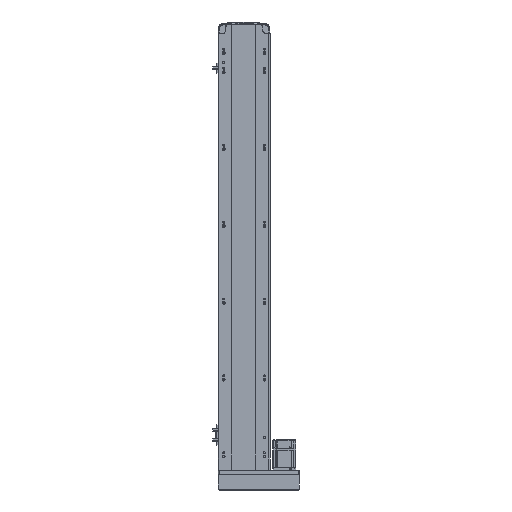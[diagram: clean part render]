
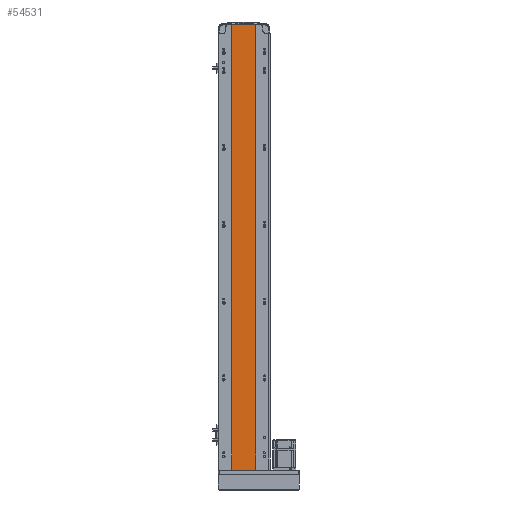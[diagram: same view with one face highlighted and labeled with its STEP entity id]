
A CAD part, front view. The second image highlights one B-rep face of the part: STEP entity #54531.
In plain terms, the highlighted planar face has unit normal (0, -1, 0).
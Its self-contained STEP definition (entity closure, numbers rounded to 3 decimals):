
#2280 = PLANE ( 'NONE',  #33561 ) ;
#2338 = CARTESIAN_POINT ( 'NONE',  ( 30., 1., 1159. ) ) ;
#3316 = VERTEX_POINT ( 'NONE', #15668 ) ;
#4162 = VERTEX_POINT ( 'NONE', #29445 ) ;
#5282 = EDGE_CURVE ( 'NONE', #32077, #3316, #43988, .T. ) ;
#6586 = EDGE_LOOP ( 'NONE', ( #13272, #41382, #21605, #58001 ) ) ;
#7903 = VECTOR ( 'NONE', #25782, 1000. ) ;
#9614 = VECTOR ( 'NONE', #40046, 1000. ) ;
#10945 = CARTESIAN_POINT ( 'NONE',  ( -32., 1., 1159. ) ) ;
#13084 = CARTESIAN_POINT ( 'NONE',  ( -32., 1., 0. ) ) ;
#13272 = ORIENTED_EDGE ( 'NONE', *, *, #29206, .T. ) ;
#15668 = CARTESIAN_POINT ( 'NONE',  ( 30., 1., 0. ) ) ;
#15689 = DIRECTION ( 'NONE',  ( 0., 1., 0. ) ) ;
#17677 = DIRECTION ( 'NONE',  ( 1., 0., 0. ) ) ;
#18679 = CARTESIAN_POINT ( 'NONE',  ( 30., 1., 1159. ) ) ;
#21605 = ORIENTED_EDGE ( 'NONE', *, *, #26670, .F. ) ;
#25252 = VECTOR ( 'NONE', #17677, 1000. ) ;
#25601 = DIRECTION ( 'NONE',  ( 1., 0., 0. ) ) ;
#25782 = DIRECTION ( 'NONE',  ( 0., 0., -1. ) ) ;
#26670 = EDGE_CURVE ( 'NONE', #4162, #32077, #55196, .T. ) ;
#29199 = CARTESIAN_POINT ( 'NONE',  ( -32., 1., 0. ) ) ;
#29206 = EDGE_CURVE ( 'NONE', #37166, #3316, #36600, .T. ) ;
#29445 = CARTESIAN_POINT ( 'NONE',  ( -32., 1., 1159. ) ) ;
#29731 = EDGE_CURVE ( 'NONE', #4162, #37166, #46400, .T. ) ;
#32077 = VERTEX_POINT ( 'NONE', #2338 ) ;
#33561 = AXIS2_PLACEMENT_3D ( 'NONE', #33981, #15689, #47146 ) ;
#33981 = CARTESIAN_POINT ( 'NONE',  ( -32., 1., 1159. ) ) ;
#36600 = LINE ( 'NONE', #13084, #25252 ) ;
#37166 = VERTEX_POINT ( 'NONE', #29199 ) ;
#39632 = FACE_OUTER_BOUND ( 'NONE', #6586, .T. ) ;
#40046 = DIRECTION ( 'NONE',  ( 0., 0., -1. ) ) ;
#41382 = ORIENTED_EDGE ( 'NONE', *, *, #5282, .F. ) ;
#42507 = VECTOR ( 'NONE', #25601, 1000. ) ;
#43988 = LINE ( 'NONE', #18679, #7903 ) ;
#46400 = LINE ( 'NONE', #58363, #9614 ) ;
#47146 = DIRECTION ( 'NONE',  ( -1., 0., 0. ) ) ;
#54531 = ADVANCED_FACE ( 'NONE', ( #39632 ), #2280, .F. ) ;
#55196 = LINE ( 'NONE', #10945, #42507 ) ;
#58001 = ORIENTED_EDGE ( 'NONE', *, *, #29731, .T. ) ;
#58363 = CARTESIAN_POINT ( 'NONE',  ( -32., 1., 1159. ) ) ;
